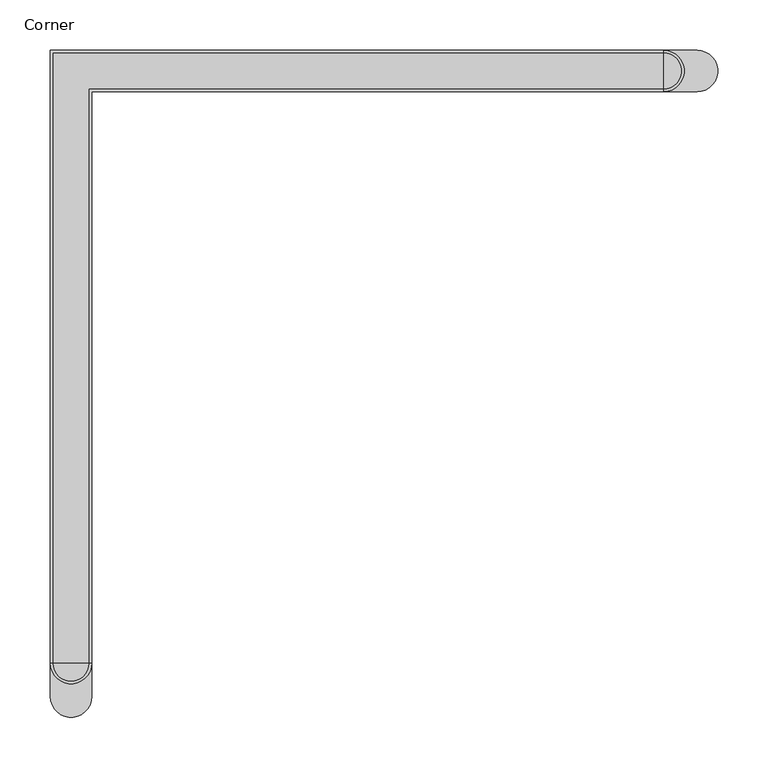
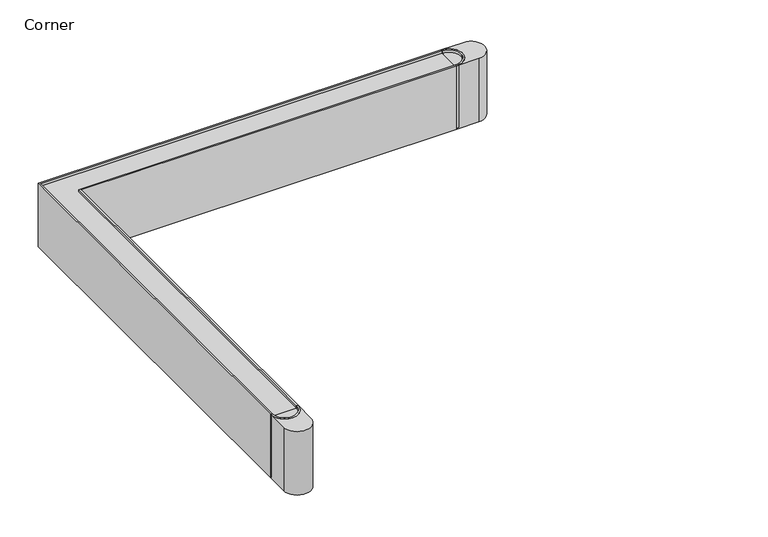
"""IFC4 building model written with IfcOpenShell, lengths in millimetres: light fixture geometry, Lighting-Ceiling-Betacalco-Block-Corner : Corner."""

from ifc_helpers import new_model, si_unit, point, frame, frame_2d, origin, origin_with_axes, place, context, project, spatial, polyline, circle_curve, trimmed, segment, composite_curve, outline, extrude, source, transform, mapped, element, save
from ifc_brep_helpers import plane_surface, cylinder_surface, revolved_surface, advanced_brep


def corner_0d147cad(model_context):
    return source(origin(), model_context, "Body", "SolidModel", [
        extrude(outline(composite_curve([segment(polyline([(588.9625, -20.6375), (588.9625, -18.0975)]), True, "CONTINUOUS"), segment(trimmed(circle_curve(frame_2d((588.9625, 0.0)), 18.0975), [point((588.9625, -18.0975))], [point((588.9625, 18.0975))], True, "CARTESIAN"), True, "CONTINUOUS"), segment(polyline([(588.9625, 18.0975), (588.9625, 20.6375)]), True, "CONTINUOUS"), segment(trimmed(circle_curve(frame_2d((588.9625, 0.0)), 20.6375), [point((588.9625, 20.6375))], [point((588.9625, -20.6375))], False, "CARTESIAN"), True, "CONTINUOUS")], self_intersect=False)), frame((0.0, 0.0, 1.5875), z_axis=(0.0, 0.0, 1.0), x_axis=(1.0, 0.0, 0.0)), (0.0, 0.0, 1.0), 100.0125),
        extrude(outline(composite_curve([segment(polyline([(588.9625, -18.0975), (588.9625, 18.0975)]), True, "CONTINUOUS"), segment(trimmed(circle_curve(frame_2d((588.9625, 0.0)), 18.0975), [point((588.9625, 18.0975))], [point((588.9625, -18.0975))], False, "CARTESIAN"), True, "CONTINUOUS")], self_intersect=False)), frame((0.0, 0.0, 96.3095588), z_axis=(0.0, 0.0, 1.0), x_axis=(1.0, 0.0, 0.0)), (0.0, 0.0, 1.0), 1.5875),
        advanced_brep(
        [(588.9625, 20.6375, 1.5875), (588.9625, -20.6375, 1.5875), (588.9625, -20.6375, 0.0), (588.9625, 20.6375, 0.0), (622.3, 20.6375, 0.0), (622.3, -20.6375, 0.0), (588.9625, 20.6375, 101.6), (588.9625, -20.6375, 101.6), (622.3, -20.6375, 101.6), (622.3, 20.6375, 101.6)],
        [
            (0, 1),
            (1, 0, circle_curve(frame((588.9625, 0.0, 1.5875), z_axis=(0.0, 0.0, 1.0), x_axis=(1.0, 0.0, 0.0)), 20.6375)),
            (2, 3),
            (3, 4),
            (4, 5, circle_curve(frame((622.3, 0.0, 0.0), z_axis=(0.0, 0.0, -1.0), x_axis=(1.0, 0.0, 0.0)), 20.6375)),
            (5, 2),
            (0, 3),
            (2, 1),
            (6, 7, circle_curve(frame((588.9625, 0.0, 101.6), z_axis=(0.0, 0.0, -1.0), x_axis=(1.0, 0.0, 0.0)), 20.6375)),
            (7, 8),
            (8, 9, circle_curve(frame((622.3, 0.0, 101.6), z_axis=(0.0, 0.0, 1.0), x_axis=(1.0, 0.0, 0.0)), 20.6375)),
            (9, 6),
            (6, 0),
            (1, 7),
            (5, 8),
            (4, 9),
        ],
        [
            plane_surface(frame((609.6, 0.0, 1.5875), z_axis=(0.0, 0.0, 1.0), x_axis=(0.0, 1.0, 0.0))),
            plane_surface(frame((609.6, 0.0, 0.0), z_axis=(0.0, 0.0, -1.0), x_axis=(0.0, -1.0, 0.0))),
            plane_surface(frame((588.9625, 20.6375, 1.5875), z_axis=(-1.0, 0.0, 0.0), x_axis=(0.0, 0.0, -1.0))),
            plane_surface(frame((609.6, 0.0, 101.6), z_axis=(0.0, 0.0, 1.0), x_axis=(0.0, -1.0, 0.0))),
            revolved_surface(polyline([(609.6, 0.0, 1.5875), (609.6, 0.0, 101.6)]), (588.9625, 0.0, 0.0), (0.0, 0.0, -1.0)),
            plane_surface(frame((588.9625, -20.6375, 101.6), z_axis=(0.0, -1.0, 0.0), x_axis=(0.0, 0.0, -1.0))),
            cylinder_surface(frame((622.3, 0.0, 0.0), z_axis=(0.0, 0.0, 1.0), x_axis=(1.0, 0.0, 0.0)), 20.6375),
            plane_surface(frame((622.3, 20.6375, 101.6), z_axis=(0.0, 1.0, 0.0), x_axis=(0.0, 0.0, -1.0))),
        ],
        [
            (0, [[1, 2]]),
            (1, [[3, 4, 5, 6]]),
            (2, [[-1, 7, -3, 8]]),
            (3, [[9, 10, 11, 12]]),
            (4, [[-9, 13, -2, 14]]),
            (5, [[-10, -14, -8, -6, 15]]),
            (6, [[-11, -15, -5, 16]]),
            (7, [[-12, -16, -4, -7, -13]]),
        ],
    ),
        extrude(outline(composite_curve([segment(polyline([(-20.6375, -588.9625), (-18.0975, -588.9625)]), True, "CONTINUOUS"), segment(trimmed(circle_curve(frame_2d((0.0, -588.9625)), 18.0975), [point((-18.0975, -588.9625))], [point((18.0975, -588.9625))], True, "CARTESIAN"), True, "CONTINUOUS"), segment(polyline([(18.0975, -588.9625), (20.6375, -588.9625)]), True, "CONTINUOUS"), segment(trimmed(circle_curve(frame_2d((0.0, -588.9625)), 20.6375), [point((20.6375, -588.9625))], [point((-20.6375, -588.9625))], False, "CARTESIAN"), True, "CONTINUOUS")], self_intersect=False)), frame((0.0, 0.0, 1.5875), z_axis=(0.0, 0.0, 1.0), x_axis=(1.0, 0.0, 0.0)), (0.0, 0.0, 1.0), 100.0125),
        extrude(outline(composite_curve([segment(polyline([(-18.0975, -588.9625), (18.0975, -588.9625)]), True, "CONTINUOUS"), segment(trimmed(circle_curve(frame_2d((0.0, -588.9625)), 18.0975), [point((18.0975, -588.9625))], [point((-18.0975, -588.9625))], False, "CARTESIAN"), True, "CONTINUOUS")], self_intersect=False)), frame((0.0, 0.0, 96.3095588), z_axis=(0.0, 0.0, 1.0), x_axis=(1.0, 0.0, 0.0)), (0.0, 0.0, 1.0), 1.5875),
        advanced_brep(
        [(20.6375, -588.9625, 1.5875), (-20.6375, -588.9625, 1.5875), (-20.6375, -588.9625, 0.0), (20.6375, -588.9625, 0.0), (20.6375, -622.3, 0.0), (-20.6375, -622.3, 0.0), (20.6375, -588.9625, 101.6), (-20.6375, -588.9625, 101.6), (-20.6375, -622.3, 101.6), (20.6375, -622.3, 101.6)],
        [
            (0, 1),
            (1, 0, circle_curve(frame((0.0, -588.9625, 1.5875), z_axis=(0.0, 0.0, 1.0), x_axis=(0.0, -1.0, 0.0)), 20.6375)),
            (2, 3),
            (3, 4),
            (4, 5, circle_curve(frame((0.0, -622.3, 0.0), z_axis=(0.0, 0.0, -1.0), x_axis=(0.0, -1.0, 0.0)), 20.6375)),
            (5, 2),
            (0, 3),
            (2, 1),
            (6, 7, circle_curve(frame((0.0, -588.9625, 101.6), z_axis=(0.0, 0.0, -1.0), x_axis=(0.0, -1.0, 0.0)), 20.6375)),
            (7, 8),
            (8, 9, circle_curve(frame((0.0, -622.3, 101.6), z_axis=(0.0, 0.0, 1.0), x_axis=(0.0, -1.0, 0.0)), 20.6375)),
            (9, 6),
            (6, 0),
            (1, 7),
            (5, 8),
            (4, 9),
        ],
        [
            plane_surface(frame((0.0, -609.6, 1.5875), z_axis=(0.0, 0.0, 1.0), x_axis=(1.0, 0.0, 0.0))),
            plane_surface(frame((0.0, -609.6, 0.0), z_axis=(0.0, 0.0, -1.0), x_axis=(-1.0, 0.0, 0.0))),
            plane_surface(frame((20.6375, -588.9625, 1.5875), z_axis=(0.0, 1.0, 0.0), x_axis=(0.0, 0.0, -1.0))),
            plane_surface(frame((0.0, -609.6, 101.6), z_axis=(0.0, 0.0, 1.0), x_axis=(-1.0, 0.0, 0.0))),
            revolved_surface(polyline([(0.0, -609.6, 1.5875), (0.0, -609.6, 101.6)]), (0.0, -588.9625, 0.0), (0.0, 0.0, -1.0)),
            plane_surface(frame((-20.6375, -588.9625, 101.6), z_axis=(-1.0, 0.0, 0.0), x_axis=(0.0, 0.0, -1.0))),
            cylinder_surface(frame((0.0, -622.3, 0.0), z_axis=(0.0, 0.0, 1.0), x_axis=(0.0, -1.0, 0.0)), 20.6375),
            plane_surface(frame((20.6375, -622.3, 101.6), z_axis=(1.0, 0.0, 0.0), x_axis=(0.0, 0.0, -1.0))),
        ],
        [
            (0, [[1, 2]]),
            (1, [[3, 4, 5, 6]]),
            (2, [[-1, 7, -3, 8]]),
            (3, [[9, 10, 11, 12]]),
            (4, [[-9, 13, -2, 14]]),
            (5, [[-10, -14, -8, -6, 15]]),
            (6, [[-11, -15, -5, 16]]),
            (7, [[-12, -16, -4, -7, -13]]),
        ],
    ),
        advanced_brep(
        [(0.0, 0.0, 0.0), (-1.2878851, 0.0, 0.0), (1.2878851, 0.0, 0.0), (1.2878851, 0.0, 1.5875), (-1.2878851, 0.0, 1.5875), (0.0, 0.0, 1.5875)],
        [
            (0, 1),
            (1, 2, circle_curve(frame((0.0, 0.0, 0.0), z_axis=(0.0, 0.0, -1.0), x_axis=(-1.0, 0.0, 0.0)), 1.2878851)),
            (2, 0),
            (2, 1, circle_curve(frame((0.0, 0.0, 0.0), z_axis=(0.0, 0.0, -1.0), x_axis=(-1.0, 0.0, 0.0)), 1.2878851)),
            (3, 4, circle_curve(frame((0.0, 0.0, 1.5875), z_axis=(0.0, 0.0, 1.0), x_axis=(-1.0, 0.0, 0.0)), 1.2878851)),
            (4, 5),
            (5, 3),
            (4, 3, circle_curve(frame((0.0, 0.0, 1.5875), z_axis=(0.0, 0.0, 1.0), x_axis=(-1.0, 0.0, 0.0)), 1.2878851)),
            (1, 4),
            (3, 2),
        ],
        [
            plane_surface(frame((0.0, 0.0, 0.0), z_axis=(0.0, 0.0, -1.0), x_axis=(-1.0, 0.0, 0.0))),
            plane_surface(frame((0.0, 0.0, 1.5875), z_axis=(0.0, 0.0, 1.0), x_axis=(-1.0, 0.0, 0.0))),
            cylinder_surface(frame((0.0, 0.0, 10.1320953), z_axis=(0.0, 0.0, -1.0), x_axis=(-1.0, 0.0, 0.0)), 1.2878851),
        ],
        [
            (0, [[1, 2, 3]]),
            (0, [[-3, 4, -1]]),
            (1, [[5, 6, 7]]),
            (1, [[8, -7, -6]]),
            (2, [[-2, 9, -5, 10]]),
            (2, [[-4, -10, -8, -9]]),
        ],
    ),
        extrude(outline(polyline([(588.9625, 18.0975), (588.9625, -18.0975), (18.0975, -18.0975), (18.0975, -588.9625), (-18.0975, -588.9625), (-18.0975, 18.0975), (588.9625, 18.0975)])), origin_with_axes(), (0.0, 0.0, 1.0), 1.5875),
        extrude(outline(polyline([(588.9625, 18.0975), (588.9625, -18.0975), (18.0975, -18.0975), (18.0975, -588.9625), (-18.0975, -588.9625), (-18.0975, 18.0975), (588.9625, 18.0975)])), frame((0.0, 0.0, 53.687913), z_axis=(0.0, 0.0, 1.0), x_axis=(1.0, 0.0, 0.0)), (0.0, 0.0, 1.0), 1.5875),
        extrude(outline(polyline([(588.9625, 18.0975), (588.9625, -18.0975), (18.0975, -18.0975), (18.0975, -588.9625), (-18.0975, -588.9625), (-18.0975, 18.0975), (588.9625, 18.0975)])), frame((0.0, 0.0, 96.3095588), z_axis=(0.0, 0.0, 1.0), x_axis=(1.0, 0.0, 0.0)), (0.0, 0.0, 1.0), 1.5875),
        extrude(outline(polyline([(588.9625, 20.6375), (588.9625, 18.0975), (-18.0975, 18.0975), (-18.0975, -588.9625), (-20.6375, -588.9625), (-20.6375, 20.6375), (588.9625, 20.6375)])), origin_with_axes(), (0.0, 0.0, 1.0), 101.6),
        extrude(outline(polyline([(588.9625, -18.0975), (588.9625, -20.6375), (20.6375, -20.6375), (20.6375, -588.9625), (18.0975, -588.9625), (18.0975, -18.0975), (588.9625, -18.0975)])), origin_with_axes(), (0.0, 0.0, 1.0), 101.6),
    ])


if __name__ == "__main__":
    model = new_model("IFC4")
    model_context = context("Model", 3, world=origin())
    ifc_project = project(units=[si_unit("LENGTHUNIT", "METRE", prefix="MILLI")], contexts=[model_context])
    site = spatial("IfcSite", under=ifc_project)
    building = spatial("IfcBuilding", under=site)
    placement = place(None, origin())
    corner_shape = corner_0d147cad(model_context)
    element("IfcLightFixture", 1, ObjectType="Lighting-Ceiling-Betacalco-Block-Corner : Corner", at=placement, inside=building, context=model_context, shape_type="MappedRepresentation", body=[
        mapped(corner_shape, transform((0.0, 0.0, 0.0), x_axis=(1.0, 0.0, 0.0), y_axis=(0.0, 1.0, 0.0), z_axis=(0.0, 0.0, 1.0))),
    ])
    save(model, "model.ifc")
